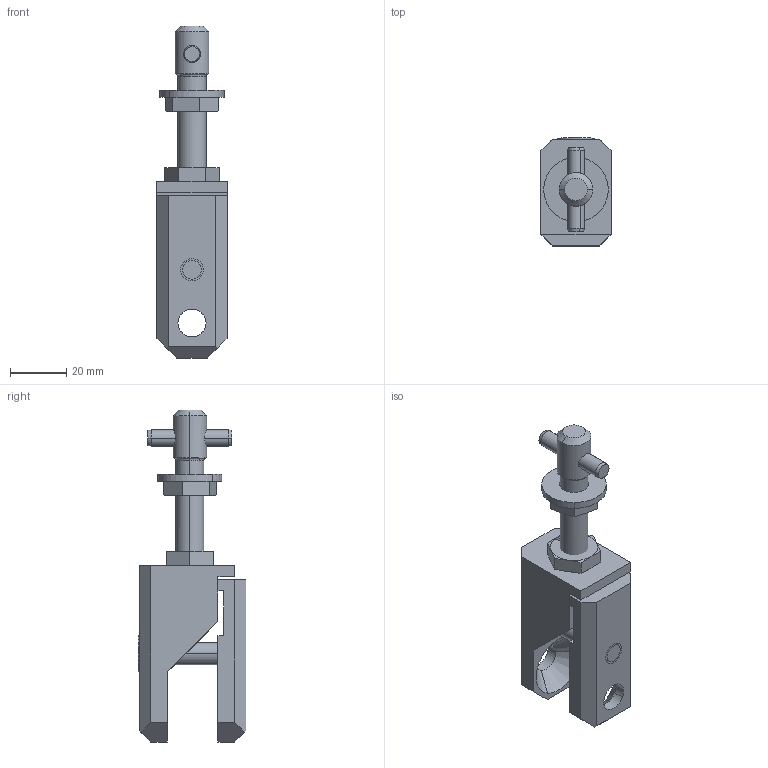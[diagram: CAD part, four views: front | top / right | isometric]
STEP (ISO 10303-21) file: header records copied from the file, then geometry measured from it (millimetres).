
FILE_DESCRIPTION(('STEP AP214'),'1');
FILE_NAME('EGT193_1722975_KUGELVERB_INI_UND_SAUGER.CATPart.stp','2015-09-14T13:12:12',('3D-Tool'),(' '),'Spatial InterOp 3D',' ',' ');
FILE_SCHEMA(('automotive_design'));
Length unit declared in the file: millimetre
Products named in the file (8): EGT193_1722975_KUGELVERB_INI_UND_SAUGER|EGT_193_AUSLEGER_GRUNDELEMENT|Solid.1; EGT193_1722975_KUGELVERB_INI_UND_SAUGER|EGT_193_AUSLEGER_KLEMMELEMENT|Solid.1; EGT193_1722975_KUGELVERB_INI_UND_SAUGER|EGT_193_GEWINDEADAPTIERUNG|Solid.1; EGT193_1722975_KUGELVERB_INI_UND_SAUGER|DIN_439_SECHSKANTMUTTER_M10.1|Solid.24; EGT193_1722975_KUGELVERB_INI_UND_SAUGER|DIN_439_SECHSKANTMUTTER_M10.2|Solid.24; EGT193_1722975_KUGELVERB_INI_UND_SAUGER|DIN_6796_SPANNSCHEIBE_10_5.1|Solid.14; EGT193_1722975_KUGELVERB_INI_UND_SAUGER|ZYLINDERSTIFT_DIN_6365_6M6X30.1|Solid.1; EGT193_1722975_KUGELVERB_INI_UND_SAUGER|DIN_912_ZYLINDERSCHRAUBE_M8X30.1|Solid.14
Bounding box: 25 x 38.5 x 118.5 mm (x, y, z)
Volume: 44344.8 mm3; surface area: 18786.4 mm2
Topology: 8 solids, 8 shells, 159 faces, 410 edges, 266 vertices
Faces by surface type: plane 60, cylinder 50, cone 45, torus 4
Entity records: 6847 total; most frequent: CARTESIAN_POINT 1520, ORIENTED_EDGE 816, DIRECTION 803, EDGE_CURVE 408, AXIS2_PLACEMENT_3D 313, VERTEX_POINT 266, EDGE_LOOP 178, LINE 177
